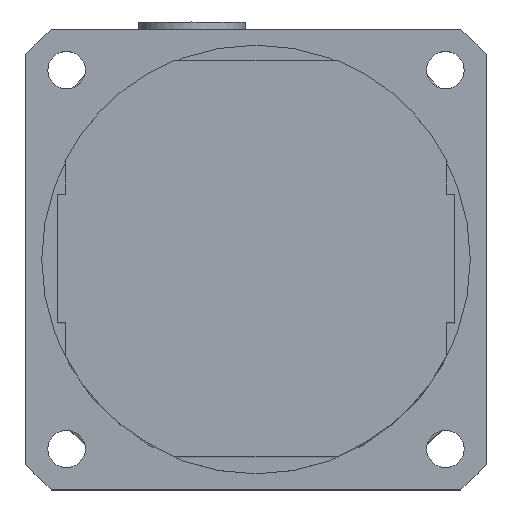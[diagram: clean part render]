
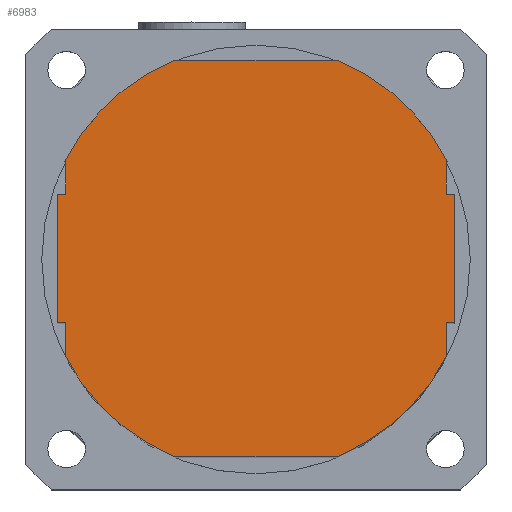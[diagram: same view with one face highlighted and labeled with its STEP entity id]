
A CAD part, top view. The second image highlights one B-rep face of the part: STEP entity #6983.
In plain terms, the highlighted planar face has unit normal (0, 0, 1).
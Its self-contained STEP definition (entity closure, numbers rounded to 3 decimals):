
#2179=LINE('',#11011,#8263);
#2183=LINE('',#11020,#8267);
#2187=LINE('',#11029,#8271);
#2190=LINE('',#11035,#8274);
#2193=LINE('',#11041,#8277);
#2197=LINE('',#11050,#8281);
#2199=LINE('',#11055,#8283);
#2200=LINE('',#11059,#8284);
#2201=LINE('',#11061,#8285);
#2202=LINE('',#11063,#8286);
#2203=LINE('',#11065,#8287);
#2204=LINE('',#11068,#8288);
#2205=LINE('',#11072,#8289);
#2206=LINE('',#11074,#8290);
#2207=LINE('',#11076,#8291);
#2208=LINE('',#11078,#8292);
#2822=VERTEX_POINT('',#11012);
#2823=VERTEX_POINT('',#11013);
#2826=VERTEX_POINT('',#11021);
#2827=VERTEX_POINT('',#11022);
#2830=VERTEX_POINT('',#11030);
#2832=VERTEX_POINT('',#11036);
#2834=VERTEX_POINT('',#11042);
#2835=VERTEX_POINT('',#11043);
#2838=VERTEX_POINT('',#11054);
#2839=VERTEX_POINT('',#11056);
#2840=VERTEX_POINT('',#11058);
#2841=VERTEX_POINT('',#11060);
#2842=VERTEX_POINT('',#11062);
#2843=VERTEX_POINT('',#11064);
#2844=VERTEX_POINT('',#11067);
#2845=VERTEX_POINT('',#11069);
#2846=VERTEX_POINT('',#11071);
#2847=VERTEX_POINT('',#11073);
#2848=VERTEX_POINT('',#11075);
#2849=VERTEX_POINT('',#11077);
#3284=CIRCLE('',#7593,40.);
#3285=CIRCLE('',#7594,40.);
#3286=CIRCLE('',#7595,40.);
#3287=CIRCLE('',#7596,40.);
#3788=EDGE_CURVE('',#2822,#2823,#2179,.T.);
#3792=EDGE_CURVE('',#2826,#2827,#2183,.T.);
#3796=EDGE_CURVE('',#2827,#2830,#2187,.T.);
#3799=EDGE_CURVE('',#2830,#2832,#2190,.T.);
#3802=EDGE_CURVE('',#2834,#2835,#2193,.T.);
#3806=EDGE_CURVE('',#2835,#2822,#2197,.T.);
#3808=EDGE_CURVE('',#2838,#2834,#3284,.T.);
#3809=EDGE_CURVE('',#2839,#2838,#2199,.T.);
#3810=EDGE_CURVE('',#2840,#2839,#3285,.T.);
#3811=EDGE_CURVE('',#2841,#2840,#2200,.T.);
#3812=EDGE_CURVE('',#2842,#2841,#2201,.T.);
#3813=EDGE_CURVE('',#2843,#2842,#2202,.T.);
#3814=EDGE_CURVE('',#2832,#2843,#2203,.T.);
#3815=EDGE_CURVE('',#2844,#2826,#3286,.T.);
#3816=EDGE_CURVE('',#2845,#2844,#2204,.T.);
#3817=EDGE_CURVE('',#2846,#2845,#3287,.T.);
#3818=EDGE_CURVE('',#2847,#2846,#2205,.T.);
#3819=EDGE_CURVE('',#2848,#2847,#2206,.T.);
#3820=EDGE_CURVE('',#2849,#2848,#2207,.T.);
#3821=EDGE_CURVE('',#2823,#2849,#2208,.T.);
#4970=ORIENTED_EDGE('',*,*,#3788,.F.);
#4971=ORIENTED_EDGE('',*,*,#3806,.F.);
#4972=ORIENTED_EDGE('',*,*,#3802,.F.);
#4973=ORIENTED_EDGE('',*,*,#3808,.F.);
#4974=ORIENTED_EDGE('',*,*,#3809,.F.);
#4975=ORIENTED_EDGE('',*,*,#3810,.F.);
#4976=ORIENTED_EDGE('',*,*,#3811,.F.);
#4977=ORIENTED_EDGE('',*,*,#3812,.F.);
#4978=ORIENTED_EDGE('',*,*,#3813,.F.);
#4979=ORIENTED_EDGE('',*,*,#3814,.F.);
#4980=ORIENTED_EDGE('',*,*,#3799,.F.);
#4981=ORIENTED_EDGE('',*,*,#3796,.F.);
#4982=ORIENTED_EDGE('',*,*,#3792,.F.);
#4983=ORIENTED_EDGE('',*,*,#3815,.F.);
#4984=ORIENTED_EDGE('',*,*,#3816,.F.);
#4985=ORIENTED_EDGE('',*,*,#3817,.F.);
#4986=ORIENTED_EDGE('',*,*,#3818,.F.);
#4987=ORIENTED_EDGE('',*,*,#3819,.F.);
#4988=ORIENTED_EDGE('',*,*,#3820,.F.);
#4989=ORIENTED_EDGE('',*,*,#3821,.F.);
#6136=EDGE_LOOP('',(#4970,#4971,#4972,#4973,#4974,#4975,#4976,#4977,#4978,
#4979,#4980,#4981,#4982,#4983,#4984,#4985,#4986,#4987,#4988,#4989));
#6598=FACE_BOUND('',#6136,.T.);
#6983=ADVANCED_FACE('',(#6598),#8554,.T.);
#7592=AXIS2_PLACEMENT_3D('',#11052,#13990,$);
#7593=AXIS2_PLACEMENT_3D('',#11053,#13991,#13992);
#7594=AXIS2_PLACEMENT_3D('',#11057,#13994,#13995);
#7595=AXIS2_PLACEMENT_3D('',#11066,#14000,#14001);
#7596=AXIS2_PLACEMENT_3D('',#11070,#14003,#14004);
#8263=VECTOR('',#13965,1.);
#8267=VECTOR('',#13970,1.);
#8271=VECTOR('',#13975,1.);
#8274=VECTOR('',#13979,1.);
#8277=VECTOR('',#13983,1.);
#8281=VECTOR('',#13988,1.);
#8283=VECTOR('',#13993,1.);
#8284=VECTOR('',#13996,1.);
#8285=VECTOR('',#13997,1.);
#8286=VECTOR('',#13998,1.);
#8287=VECTOR('',#13999,1.);
#8288=VECTOR('',#14002,1.);
#8289=VECTOR('',#14005,1.);
#8290=VECTOR('',#14006,1.);
#8291=VECTOR('',#14007,1.);
#8292=VECTOR('',#14008,1.);
#8554=PLANE('',#7592);
#11011=CARTESIAN_POINT('',(35.5,12.,222.));
#11012=CARTESIAN_POINT('',(35.5,12.,222.));
#11013=CARTESIAN_POINT('',(37.,12.,222.));
#11020=CARTESIAN_POINT('',(-35.721,-18.,222.));
#11021=CARTESIAN_POINT('',(-35.721,-18.,222.));
#11022=CARTESIAN_POINT('',(-35.5,-18.,222.));
#11029=CARTESIAN_POINT('',(-35.5,-18.,222.));
#11030=CARTESIAN_POINT('',(-35.5,-12.,222.));
#11035=CARTESIAN_POINT('',(-35.5,-12.,222.));
#11036=CARTESIAN_POINT('',(-37.,-12.,222.));
#11041=CARTESIAN_POINT('',(35.721,18.,222.));
#11042=CARTESIAN_POINT('',(35.721,18.,222.));
#11043=CARTESIAN_POINT('',(35.5,18.,222.));
#11050=CARTESIAN_POINT('',(35.5,18.,222.));
#11052=CARTESIAN_POINT('',(0.,0.,222.));
#11053=CARTESIAN_POINT('',(0.,0.,222.));
#11054=CARTESIAN_POINT('',(15.199,37.,222.));
#11055=CARTESIAN_POINT('',(-15.199,37.,222.));
#11056=CARTESIAN_POINT('',(-15.199,37.,222.));
#11057=CARTESIAN_POINT('',(0.,0.,222.));
#11058=CARTESIAN_POINT('',(-35.721,18.,222.));
#11059=CARTESIAN_POINT('',(-35.5,18.,222.));
#11060=CARTESIAN_POINT('',(-35.5,18.,222.));
#11061=CARTESIAN_POINT('',(-35.5,12.,222.));
#11062=CARTESIAN_POINT('',(-35.5,12.,222.));
#11063=CARTESIAN_POINT('',(-37.,12.,222.));
#11064=CARTESIAN_POINT('',(-37.,12.,222.));
#11065=CARTESIAN_POINT('',(-37.,-12.,222.));
#11066=CARTESIAN_POINT('',(0.,0.,222.));
#11067=CARTESIAN_POINT('',(-15.199,-37.,222.));
#11068=CARTESIAN_POINT('',(15.199,-37.,222.));
#11069=CARTESIAN_POINT('',(15.199,-37.,222.));
#11070=CARTESIAN_POINT('',(0.,0.,222.));
#11071=CARTESIAN_POINT('',(35.721,-18.,222.));
#11072=CARTESIAN_POINT('',(35.5,-18.,222.));
#11073=CARTESIAN_POINT('',(35.5,-18.,222.));
#11074=CARTESIAN_POINT('',(35.5,-12.,222.));
#11075=CARTESIAN_POINT('',(35.5,-12.,222.));
#11076=CARTESIAN_POINT('',(37.,-12.,222.));
#11077=CARTESIAN_POINT('',(37.,-12.,222.));
#11078=CARTESIAN_POINT('',(37.,12.,222.));
#13965=DIRECTION('',(1.,0.,0.));
#13970=DIRECTION('',(1.,0.,0.));
#13975=DIRECTION('',(0.,1.,0.));
#13979=DIRECTION('',(-1.,0.,0.));
#13983=DIRECTION('',(-1.,0.,0.));
#13988=DIRECTION('',(0.,-1.,0.));
#13990=DIRECTION('',(0.,0.,1.));
#13991=DIRECTION('',(0.,0.,-1.));
#13992=DIRECTION('',(40.,0.,0.));
#13993=DIRECTION('',(1.,0.,0.));
#13994=DIRECTION('',(0.,0.,-1.));
#13995=DIRECTION('',(40.,0.,0.));
#13996=DIRECTION('',(-1.,0.,0.));
#13997=DIRECTION('',(0.,1.,0.));
#13998=DIRECTION('',(1.,0.,0.));
#13999=DIRECTION('',(0.,1.,0.));
#14000=DIRECTION('',(0.,0.,-1.));
#14001=DIRECTION('',(40.,0.,0.));
#14002=DIRECTION('',(-1.,0.,0.));
#14003=DIRECTION('',(0.,0.,-1.));
#14004=DIRECTION('',(40.,0.,0.));
#14005=DIRECTION('',(1.,0.,0.));
#14006=DIRECTION('',(0.,-1.,0.));
#14007=DIRECTION('',(-1.,0.,0.));
#14008=DIRECTION('',(0.,-1.,0.));
